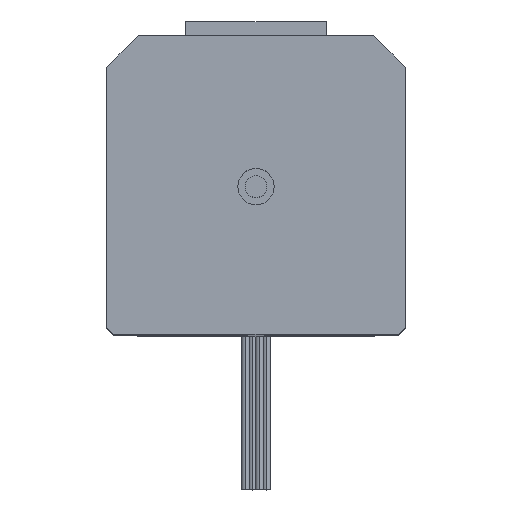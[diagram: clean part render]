
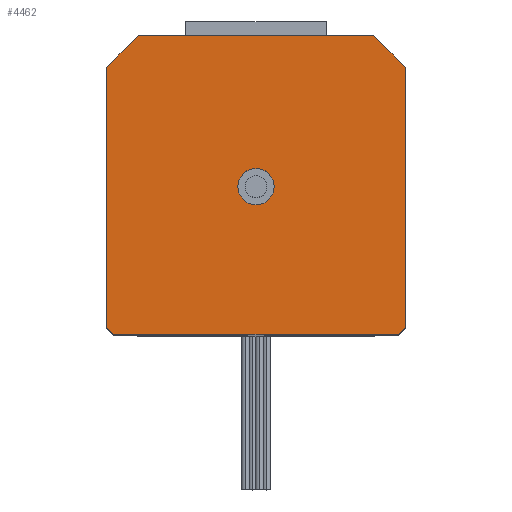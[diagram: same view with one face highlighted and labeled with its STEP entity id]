
A CAD part, top view. The second image highlights one B-rep face of the part: STEP entity #4462.
In plain terms, the highlighted planar face has unit normal (0, 0, 1).
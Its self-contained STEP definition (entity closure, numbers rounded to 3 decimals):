
#78 = FACE_BOUND ( 'NONE', #400, .T. ) ;
#79 = CARTESIAN_POINT ( 'NONE',  ( -19., 19.25, 60.5 ) ) ;
#179 = VERTEX_POINT ( 'NONE', #5672 ) ;
#320 = EDGE_CURVE ( 'NONE', #3738, #6299, #3245, .T. ) ;
#321 = CARTESIAN_POINT ( 'NONE',  ( 21.25, -20., 60.5 ) ) ;
#373 = CIRCLE ( 'NONE', #1942, 2.58 ) ;
#400 = EDGE_LOOP ( 'NONE', ( #3354, #2408 ) ) ;
#457 = LINE ( 'NONE', #9607, #2933 ) ;
#532 = VERTEX_POINT ( 'NONE', #5435 ) ;
#1000 = CARTESIAN_POINT ( 'NONE',  ( -2.58, 0., 60.5 ) ) ;
#1577 = DIRECTION ( 'NONE',  ( 0., 0., -1. ) ) ;
#1611 = VERTEX_POINT ( 'NONE', #8785 ) ;
#1666 = EDGE_CURVE ( 'NONE', #7967, #2305, #457, .T. ) ;
#1761 = CARTESIAN_POINT ( 'NONE',  ( 21.25, 21.5, 60.5 ) ) ;
#1942 = AXIS2_PLACEMENT_3D ( 'NONE', #10306, #2133, #3696 ) ;
#1992 = VERTEX_POINT ( 'NONE', #9087 ) ;
#2133 = DIRECTION ( 'NONE',  ( 0., 0., -1. ) ) ;
#2194 = LINE ( 'NONE', #4678, #6935 ) ;
#2273 = VECTOR ( 'NONE', #6436, 1000. ) ;
#2286 = LINE ( 'NONE', #5567, #4185 ) ;
#2305 = VERTEX_POINT ( 'NONE', #2617 ) ;
#2408 = ORIENTED_EDGE ( 'NONE', *, *, #3971, .T. ) ;
#2617 = CARTESIAN_POINT ( 'NONE',  ( 21.25, 17., 60.5 ) ) ;
#2742 = ORIENTED_EDGE ( 'NONE', *, *, #320, .T. ) ;
#2827 = AXIS2_PLACEMENT_3D ( 'NONE', #10220, #9552, #6168 ) ;
#2933 = VECTOR ( 'NONE', #10328, 1000. ) ;
#2937 = DIRECTION ( 'NONE',  ( 0.707, -0.707, 0. ) ) ;
#3157 = ORIENTED_EDGE ( 'NONE', *, *, #4692, .T. ) ;
#3245 = LINE ( 'NONE', #79, #5105 ) ;
#3354 = ORIENTED_EDGE ( 'NONE', *, *, #9620, .T. ) ;
#3422 = CARTESIAN_POINT ( 'NONE',  ( 0., 0., 60.5 ) ) ;
#3540 = EDGE_CURVE ( 'NONE', #179, #532, #5450, .T. ) ;
#3571 = AXIS2_PLACEMENT_3D ( 'NONE', #3422, #1577, #7605 ) ;
#3618 = EDGE_CURVE ( 'NONE', #1611, #7967, #2286, .T. ) ;
#3696 = DIRECTION ( 'NONE',  ( -1., 0., 0. ) ) ;
#3738 = VERTEX_POINT ( 'NONE', #9327 ) ;
#3928 = VERTEX_POINT ( 'NONE', #5304 ) ;
#3971 = EDGE_CURVE ( 'NONE', #7703, #3928, #373, .T. ) ;
#4185 = VECTOR ( 'NONE', #8904, 1000. ) ;
#4254 = ORIENTED_EDGE ( 'NONE', *, *, #3618, .T. ) ;
#4462 = ADVANCED_FACE ( 'NONE', ( #6712, #78 ), #5113, .T. ) ;
#4534 = EDGE_LOOP ( 'NONE', ( #3157, #2742, #10532, #9739, #10688, #4254, #8681, #8860 ) ) ;
#4678 = CARTESIAN_POINT ( 'NONE',  ( 40.25, -2., 60.5 ) ) ;
#4692 = EDGE_CURVE ( 'NONE', #1992, #3738, #10044, .T. ) ;
#5105 = VECTOR ( 'NONE', #5731, 1000. ) ;
#5113 = PLANE ( 'NONE',  #2827 ) ;
#5304 = CARTESIAN_POINT ( 'NONE',  ( 2.58, 0., 60.5 ) ) ;
#5435 = CARTESIAN_POINT ( 'NONE',  ( -20.25, -21., 60.5 ) ) ;
#5450 = LINE ( 'NONE', #10580, #7497 ) ;
#5462 = CIRCLE ( 'NONE', #3571, 2.58 ) ;
#5472 = DIRECTION ( 'NONE',  ( -0.707, 0.707, 0. ) ) ;
#5567 = CARTESIAN_POINT ( 'NONE',  ( 20.75, -20.5, 60.5 ) ) ;
#5672 = CARTESIAN_POINT ( 'NONE',  ( -21.25, -20., 60.5 ) ) ;
#5714 = DIRECTION ( 'NONE',  ( 0., -1., 0. ) ) ;
#5731 = DIRECTION ( 'NONE',  ( -0.707, -0.707, 0. ) ) ;
#6168 = DIRECTION ( 'NONE',  ( -1., 0., 0. ) ) ;
#6299 = VERTEX_POINT ( 'NONE', #10672 ) ;
#6436 = DIRECTION ( 'NONE',  ( 1., 0., 0. ) ) ;
#6484 = LINE ( 'NONE', #6536, #2273 ) ;
#6536 = CARTESIAN_POINT ( 'NONE',  ( 21.25, -21., 60.5 ) ) ;
#6712 = FACE_OUTER_BOUND ( 'NONE', #4534, .T. ) ;
#6935 = VECTOR ( 'NONE', #5472, 1000. ) ;
#7363 = DIRECTION ( 'NONE',  ( -1., 0., 0. ) ) ;
#7497 = VECTOR ( 'NONE', #2937, 1000. ) ;
#7605 = DIRECTION ( 'NONE',  ( -1., 0., 0. ) ) ;
#7610 = EDGE_CURVE ( 'NONE', #6299, #179, #10761, .T. ) ;
#7703 = VERTEX_POINT ( 'NONE', #1000 ) ;
#7967 = VERTEX_POINT ( 'NONE', #321 ) ;
#8681 = ORIENTED_EDGE ( 'NONE', *, *, #1666, .T. ) ;
#8785 = CARTESIAN_POINT ( 'NONE',  ( 20.25, -21., 60.5 ) ) ;
#8860 = ORIENTED_EDGE ( 'NONE', *, *, #8899, .T. ) ;
#8899 = EDGE_CURVE ( 'NONE', #2305, #1992, #2194, .T. ) ;
#8904 = DIRECTION ( 'NONE',  ( 0.707, 0.707, 0. ) ) ;
#9087 = CARTESIAN_POINT ( 'NONE',  ( 16.75, 21.5, 60.5 ) ) ;
#9210 = EDGE_CURVE ( 'NONE', #532, #1611, #6484, .T. ) ;
#9327 = CARTESIAN_POINT ( 'NONE',  ( -16.75, 21.5, 60.5 ) ) ;
#9552 = DIRECTION ( 'NONE',  ( 0., 0., 1. ) ) ;
#9607 = CARTESIAN_POINT ( 'NONE',  ( 21.25, 21.5, 60.5 ) ) ;
#9620 = EDGE_CURVE ( 'NONE', #3928, #7703, #5462, .T. ) ;
#9739 = ORIENTED_EDGE ( 'NONE', *, *, #3540, .T. ) ;
#9856 = VECTOR ( 'NONE', #5714, 1000. ) ;
#10044 = LINE ( 'NONE', #1761, #10683 ) ;
#10220 = CARTESIAN_POINT ( 'NONE',  ( 21.25, -21., 60.5 ) ) ;
#10306 = CARTESIAN_POINT ( 'NONE',  ( 0., 0., 60.5 ) ) ;
#10328 = DIRECTION ( 'NONE',  ( 0., 1., 0. ) ) ;
#10532 = ORIENTED_EDGE ( 'NONE', *, *, #7610, .T. ) ;
#10580 = CARTESIAN_POINT ( 'NONE',  ( 0.5, -41.75, 60.5 ) ) ;
#10672 = CARTESIAN_POINT ( 'NONE',  ( -21.25, 17., 60.5 ) ) ;
#10683 = VECTOR ( 'NONE', #7363, 1000. ) ;
#10688 = ORIENTED_EDGE ( 'NONE', *, *, #9210, .T. ) ;
#10709 = CARTESIAN_POINT ( 'NONE',  ( -21.25, 21.5, 60.5 ) ) ;
#10761 = LINE ( 'NONE', #10709, #9856 ) ;
